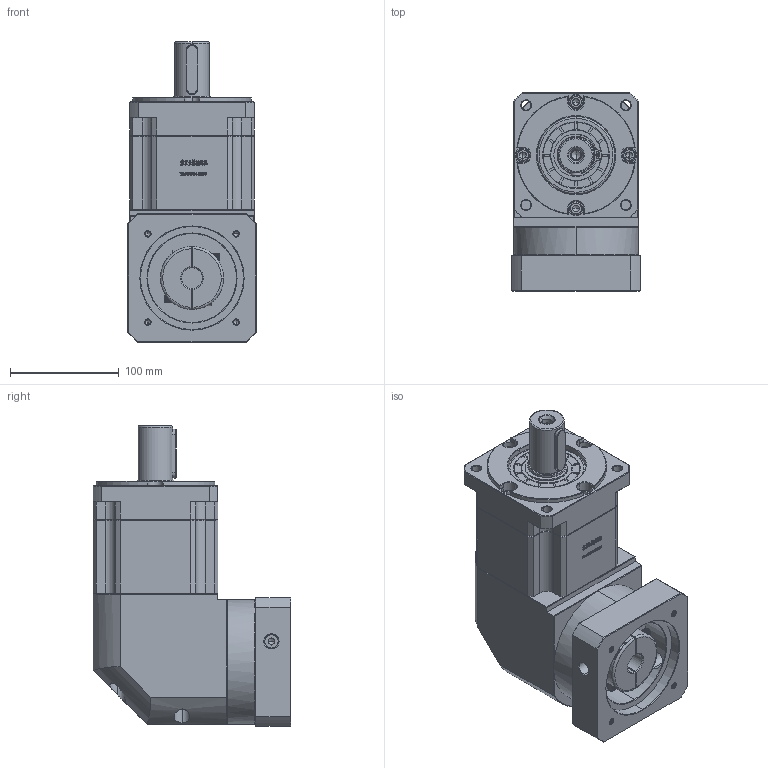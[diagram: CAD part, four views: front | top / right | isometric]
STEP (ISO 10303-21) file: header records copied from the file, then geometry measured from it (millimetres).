
FILE_DESCRIPTION (( 'STEP AP214' ), '1' );
FILE_NAME ('ZBR115A-D32-L2-19-95-115-M6.step', '2023-03-03T05:01:29', ( '' ), ( 'Microsoft' ), 'SwSTEP 2.0', 'SolidWorks 2016', '' );
FILE_SCHEMA (( 'AUTOMOTIVE_DESIGN' ));
Length unit declared in the file: millimetre
Products named in the file (1): ZBR115A-D32-L2-19-95-115-M6
Bounding box: 118 x 182.4 x 276.5 mm (x, y, z)
Volume: 3208493 mm3; surface area: 251826.1 mm2
Topology: 6 solids, 6 shells, 2970 faces, 7882 edges, 5057 vertices
Faces by surface type: plane 1558, bspline 610, cylinder 424, cone 370, torus 8
Entity records: 162448 total; most frequent: CARTESIAN_POINT 60850, ORIENTED_EDGE 15704, DIRECTION 11902, EDGE_CURVE 7852, LINE 5288, VECTOR 5288, VERTEX_POINT 5057, AXIS2_PLACEMENT_3D 3307
